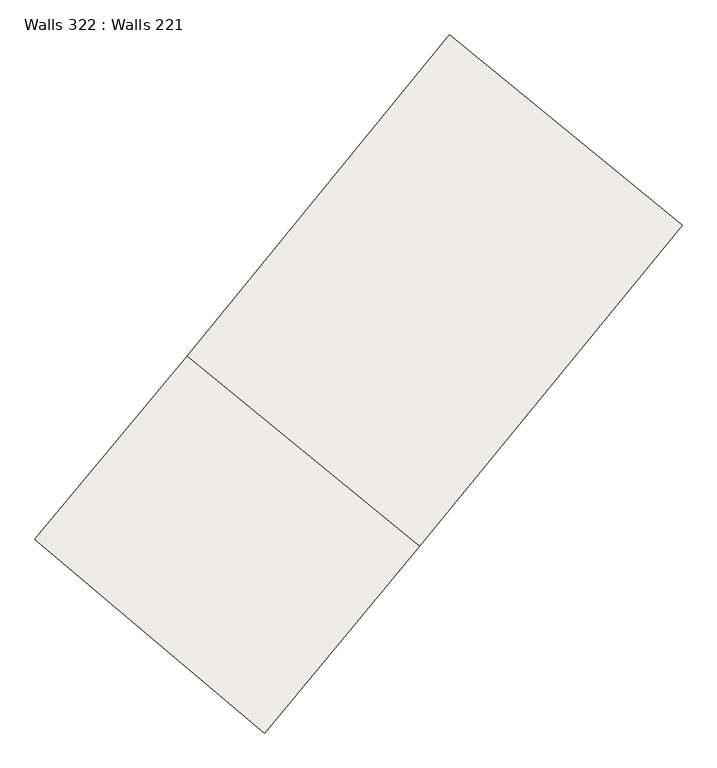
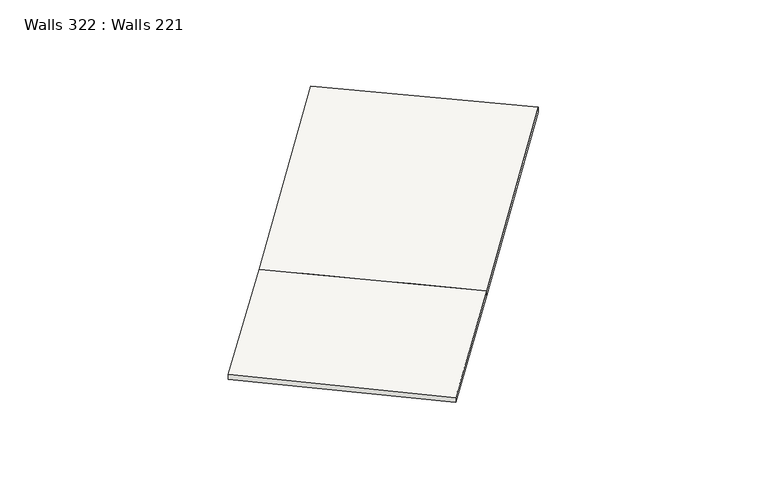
"""IFC4 building model written with IfcOpenShell, lengths in millimetres: slab geometry, Walls 322 : Walls 221."""

import ifcopenshell
import ifcopenshell.guid

model = None  # the IFC model being written
_history = None  # IfcOwnerHistory: only IFC2X3 demands one
_inside = {}  # id of a spatial element -> (the spatial element, [elements in it])
_under = {}  # id of a project, library or spatial element -> (it, [spatial elements below it])
_declared = {}  # id of a project -> (the project, [libraries it declares])
_typed = {}  # id of a type object -> (the type object, [elements of that type])
_made_of = {}  # id of a material, layer set ... -> (it, [elements and type objects made of it])


def new_model(schema):
    """Start an empty IFC model of exactly this schema.

    Asked for "IFC4X3", IfcOpenShell would pick the latest addendum, in which some entities
    have other attributes; the version numbers below select the first issue.
    IFC2X3 requires an IfcOwnerHistory on every rooted entity: one is made here for all.
    """
    global model, _history
    if schema == "IFC4X3":
        model = ifcopenshell.file(schema_version=(4, 3, 0, 0))
    else:
        model = ifcopenshell.file(schema=schema)
    _inside.clear()
    _under.clear()
    _declared.clear()
    _typed.clear()
    _made_of.clear()
    _history = None
    if model.schema == "IFC2X3":
        org = make("IfcOrganization", Name="unknown")
        user = make(
            "IfcPersonAndOrganization",
            ThePerson=make("IfcPerson", FamilyName="unknown"),
            TheOrganization=org,
        )
        app = make(
            "IfcApplication",
            ApplicationDeveloper=org,
            Version="unknown",
            ApplicationFullName="unknown",
            ApplicationIdentifier="unknown",
        )
        _history = make(
            "IfcOwnerHistory",
            OwningUser=user,
            OwningApplication=app,
            ChangeAction="ADDED",
            CreationDate=0,
        )
    return model


def make(cls, **values):
    """One entity of the class cls with the attributes given. An attribute that is None is left unset."""
    return model.create_entity(
        cls, **{name: value for name, value in values.items() if value is not None}
    )


def rooted(cls, **values):
    """An entity with a GlobalId (a new one), such as an element, a storey or a relation."""
    return make(cls, GlobalId=ifcopenshell.guid.new(), OwnerHistory=_history, **values)


def si_unit(unit_type, name, prefix=None):
    """IfcSIUnit, for example si_unit("LENGTHUNIT", "METRE", prefix="MILLI")."""
    return make("IfcSIUnit", UnitType=unit_type, Prefix=prefix, Name=name)


def assignment(units):
    """IfcUnitAssignment: the units of a project."""
    return None if units is None else make("IfcUnitAssignment", Units=units)


def point(xyz):
    """IfcCartesianPoint."""
    return None if xyz is None else make("IfcCartesianPoint", Coordinates=xyz)


def direction(xyz):
    """IfcDirection."""
    return None if xyz is None else make("IfcDirection", DirectionRatios=xyz)


def frame(location, z_axis=None, x_axis=None):
    """IfcAxis2Placement3D, a coordinate frame: its origin and axes. An axis left out is left unset."""
    return make(
        "IfcAxis2Placement3D",
        Location=point(location),
        Axis=direction(z_axis),
        RefDirection=direction(x_axis),
    )


def origin():
    """The frame at (0, 0, 0) with its axes left unset."""
    return frame((0.0, 0.0, 0.0))


def place(relative_to, where):
    """IfcLocalPlacement: puts the frame where relative to a parent placement (None: the world)."""
    return make(
        "IfcLocalPlacement", PlacementRelTo=relative_to, RelativePlacement=where
    )


def context(
    kind, dimensions, precision=None, world=None, true_north=None, identifier=None
):
    """IfcGeometricRepresentationContext, for example the 3D "Model" context."""
    return make(
        "IfcGeometricRepresentationContext",
        ContextIdentifier=identifier,
        ContextType=kind,
        CoordinateSpaceDimension=dimensions,
        Precision=precision,
        WorldCoordinateSystem=world,
        TrueNorth=true_north,
    )


def project(units=None, contexts=None):
    """IfcProject with its units and contexts."""
    return rooted(
        "IfcProject",
        Name="project",
        RepresentationContexts=contexts,
        UnitsInContext=assignment(units),
    )


def spatial(cls, under=None, at=None, **own):
    """A site, building, storey or space (cls), placed at a placement, below another one or the project."""
    s = rooted(cls, ObjectPlacement=at, **own)
    if under is not None:
        _under.setdefault(under.id(), (under, []))[1].append(s)
    return s


def shape(context_of_items, identifier, shape_type, items):
    """IfcShapeRepresentation: the items that make up one representation, for example the "Body"."""
    return make(
        "IfcShapeRepresentation",
        ContextOfItems=context_of_items,
        RepresentationIdentifier=identifier,
        RepresentationType=shape_type,
        Items=items,
    )


def source(mapping_origin, context_of_items, identifier, shape_type, items):
    """IfcRepresentationMap: a shape defined once, which mapped items show again and again."""
    return make(
        "IfcRepresentationMap",
        MappingOrigin=mapping_origin,
        MappedRepresentation=shape(context_of_items, identifier, shape_type, items),
    )


def transform(
    local_origin,
    x_axis=None,
    y_axis=None,
    z_axis=None,
    scale=None,
    scale2=None,
    scale3=None,
    uniform=True,
):
    """IfcCartesianTransformationOperator3D, or its non-uniform kind. x_axis, y_axis, z_axis: its Axis1, 2, 3."""
    if uniform:
        return make(
            "IfcCartesianTransformationOperator3D",
            Axis1=direction(x_axis),
            Axis2=direction(y_axis),
            LocalOrigin=point(local_origin),
            Scale=scale,
            Axis3=direction(z_axis),
        )
    return make(
        "IfcCartesianTransformationOperator3DnonUniform",
        Axis1=direction(x_axis),
        Axis2=direction(y_axis),
        LocalOrigin=point(local_origin),
        Scale=scale,
        Axis3=direction(z_axis),
        Scale2=scale2,
        Scale3=scale3,
    )


def mapped(mapping_source, mapping_target):
    """IfcMappedItem: shows the shape of a source again, moved by a transform."""
    return make(
        "IfcMappedItem", MappingSource=mapping_source, MappingTarget=mapping_target
    )


def made_of(thing, what):
    """Note that an element or type object is made of a material, layer set ...; save() writes the relation."""
    if what is not None:
        _made_of.setdefault(what.id(), (what, []))[1].append(thing)
    return thing


def element(
    cls,
    number,
    at=None,
    inside=None,
    cuts=None,
    type_object=None,
    material=None,
    context=None,
    identifier="Body",
    shape_type=None,
    held_by="IfcProductDefinitionShape",
    body=None,
    shapes=None,
    **own,
):
    """One element of the class cls, such as IfcWall. Its Tag is "e" and its number.

    at: its placement. inside: the storey or other place that contains it. cuts: it is an
    opening in that element (IfcRelVoidsElement). A single representation is given by context,
    identifier, shape_type and body (its items); several are given by shapes. held_by: the class
    of the entity that holds the representations. save() writes the other relations.
    """
    e = rooted(cls, Tag="e%d" % number, ObjectPlacement=at, **own)
    if body is not None:
        shapes = [shape(context, identifier, shape_type, body)]
    if shapes is not None:
        e.Representation = make(held_by, Representations=shapes)
    if inside is not None:
        _inside.setdefault(inside.id(), (inside, []))[1].append(e)
    if cuts is not None:
        rooted(
            "IfcRelVoidsElement", RelatingBuildingElement=cuts, RelatedOpeningElement=e
        )
    if type_object is not None:
        _typed.setdefault(type_object.id(), (type_object, []))[1].append(e)
    return made_of(e, material)


def aggregate(whole, parts):
    """IfcRelAggregates: a whole, such as a stair, and the parts it consists of."""
    return rooted("IfcRelAggregates", RelatingObject=whole, RelatedObjects=parts)


def save(model, path):
    """Write the relations noted so far, then the file.

    IfcRelAggregates (storeys below a building ...), IfcRelContainedInSpatialStructure (elements
    in a storey), IfcRelDefinesByType, IfcRelAssociatesMaterial and IfcRelDeclares: one each for
    every whole, place, type object, material and project.
    """
    for whole, parts in _under.values():
        aggregate(whole, parts)
    for where, things in _inside.values():
        rooted(
            "IfcRelContainedInSpatialStructure",
            RelatedElements=things,
            RelatingStructure=where,
        )
    for kind, things in _typed.values():
        rooted("IfcRelDefinesByType", RelatedObjects=things, RelatingType=kind)
    for what, things in _made_of.values():
        rooted("IfcRelAssociatesMaterial", RelatedObjects=things, RelatingMaterial=what)
    for by, libraries in _declared.values():
        rooted("IfcRelDeclares", RelatingContext=by, RelatedDefinitions=libraries)
    model.write(path)


def plane_surface(at):
    """IfcPlane: the flat surface through the origin of the frame at, square to its z axis."""
    return make("IfcPlane", Position=at)


def spline_curve(degree, points, multiplicities, knots, weights=None):
    """IfcBSplineCurveWithKnots; with weights, IfcRationalBSplineCurveWithKnots."""
    own = dict(
        Degree=degree,
        ControlPointsList=[point(p) for p in points],
        CurveForm="UNSPECIFIED",
        ClosedCurve=False,
        SelfIntersect=False,
        KnotMultiplicities=multiplicities,
        Knots=knots,
        KnotSpec="UNSPECIFIED",
    )
    if weights is None:
        return make("IfcBSplineCurveWithKnots", **own)
    return make("IfcRationalBSplineCurveWithKnots", WeightsData=weights, **own)


def spline_surface(u_degree, v_degree, points, u_multiplicities, v_multiplicities, u_knots, v_knots, weights=None):
    """IfcBSplineSurfaceWithKnots; with weights, IfcRationalBSplineSurfaceWithKnots. points: one row for each step in u."""
    own = dict(
        UDegree=u_degree,
        VDegree=v_degree,
        ControlPointsList=[[point(p) for p in row] for row in points],
        SurfaceForm="UNSPECIFIED",
        UClosed=False,
        VClosed=False,
        SelfIntersect=False,
        UMultiplicities=u_multiplicities,
        VMultiplicities=v_multiplicities,
        UKnots=u_knots,
        VKnots=v_knots,
        KnotSpec="UNSPECIFIED",
    )
    if weights is None:
        return make("IfcBSplineSurfaceWithKnots", **own)
    return make("IfcRationalBSplineSurfaceWithKnots", WeightsData=weights, **own)


def advanced_brep(points, edges, surfaces, faces):
    """IfcAdvancedBrep: a solid bounded by faces that lie on surfaces and meet in shared edges.

    An edge is (start, end): straight between two places in points (the first is 0);
    or (start, end, curve); or (start, end, curve, False) where it runs against its curve.
    A face is (place in surfaces, loops), or (place, loops, False) where it looks against
    its surface's normal. A loop lists edges by number (the first is 1), with a minus sign
    where the edge is run from its end to its start. The first loop is the outer one.
    """
    corners = [point(p) for p in points]
    vertices = [make("IfcVertexPoint", VertexGeometry=c) for c in corners]
    made = []
    for start, end, *more in edges:
        made.append(
            make(
                "IfcEdgeCurve",
                EdgeStart=vertices[start],
                EdgeEnd=vertices[end],
                EdgeGeometry=more[0] if more else make("IfcPolyline", Points=[corners[start], corners[end]]),
                SameSense=more[1] if len(more) > 1 else True,
            )
        )
    hull = []
    for where, loops, *sense in faces:
        bounds = []
        for j, loop in enumerate(loops):
            ring = [make("IfcOrientedEdge", EdgeElement=made[abs(k) - 1], Orientation=k > 0) for k in loop]
            bounds.append(
                make(
                    "IfcFaceOuterBound" if j == 0 else "IfcFaceBound",
                    Bound=make("IfcEdgeLoop", EdgeList=ring),
                    Orientation=True,
                )
            )
        hull.append(make("IfcAdvancedFace", Bounds=bounds, FaceSurface=surfaces[where], SameSense=sense[0] if sense else True))
    return make("IfcAdvancedBrep", Outer=make("IfcClosedShell", CfsFaces=hull))


def walls_322_walls_221_27f923a7(model_context):
    return source(origin(), model_context, "Body", "AdvancedBrep", [
        advanced_brep(
        [(388084.3443428, 259494.9687193, 644801.0), (388084.3443428, 259494.9687193, 644701.0), (391142.3364487, 256916.4644475, 644701.0), (391142.3364487, 256916.4644475, 644801.0), (393204.2480656, 259398.8755485, 644842.0), (390108.3996231, 261931.8031868, 644842.0), (393603.1047673, 266203.1756944, 644914.0), (396698.9532099, 263670.2480561, 644914.0), (396698.9532099, 263670.2480561, 644814.0), (393603.1047673, 266203.1756944, 644814.0), (390108.3996231, 261931.8031868, 644742.0), (393204.2480656, 259398.8755485, 644742.0)],
        [
            (0, 1),
            (1, 2),
            (2, 3),
            (3, 0),
            (3, 4, spline_curve(3, [(391142.3364487, 256916.4644475, 644801.0), (391835.756061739, 257738.829462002, 644814.66666669), (392523.085066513, 258566.330087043, 644828.33333331), (393204.2480656, 259398.8755485, 644842.0)], [4, 4], [0.0, 10.491172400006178])),
            (4, 5, spline_curve(3, [(393204.2480656, 259398.8755485, 644842.0), (392172.29858454, 260243.18476143, 644842.0), (391140.349104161, 261087.49397387, 644842.0), (390108.3996231, 261931.8031868, 644842.0)], [4, 4], [0.0, 13.123359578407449])),
            (5, 0, spline_curve(3, [(390108.3996231, 261931.8031868, 644842.0), (389439.742657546, 261114.54311419, 644828.33333331), (388765.032892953, 260302.235256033, 644814.66666669), (388084.3443428, 259494.9687193, 644801.0)], [4, 4], [0.0, 10.491172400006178])),
            (6, 7),
            (7, 8),
            (8, 9),
            (9, 6),
            (6, 5),
            (4, 7),
            (5, 10, spline_curve(3, [(390108.3996231, 261931.8031868, 644842.0), (390108.3996231, 261931.8031868, 644808.666666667), (390108.3996231, 261931.8031868, 644775.333333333), (390108.3996231, 261931.8031868, 644742.0)], [4, 4], [0.0, 0.3280839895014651])),
            (10, 1, spline_curve(3, [(390108.3996231, 261931.8031868, 644742.0), (389439.742657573, 261114.543114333, 644728.333333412), (388765.03289318, 260302.235255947, 644714.666666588), (388084.3443428, 259494.9687193, 644701.0)], [4, 4], [0.0, 10.39398811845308])),
            (10, 11, spline_curve(3, [(390108.3996231, 261931.8031868, 644742.0), (391140.349104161, 261087.49397387, 644742.0), (392172.29858454, 260243.18476143, 644742.0), (393204.2480656, 259398.8755485, 644742.0)], [4, 4], [0.0, 13.12335957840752])),
            (11, 2, spline_curve(3, [(393204.2480656, 259398.8755485, 644742.0), (392523.085066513, 258566.330087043, 644728.33333331), (391835.756061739, 257738.829462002, 644714.66666669), (391142.3364487, 256916.4644475, 644701.0)], [4, 4], [0.0, 10.491172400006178])),
            (11, 4, spline_curve(3, [(393204.2480656, 259398.8755485, 644742.0), (393204.2480656, 259398.8755485, 644775.333333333), (393204.2480656, 259398.8755485, 644808.666666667), (393204.2480656, 259398.8755485, 644842.0)], [4, 4], [0.0, 0.3280839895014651])),
            (9, 10),
            (8, 11),
        ],
        [
            plane_surface(frame((389613.3403957, 258205.7165834, 644751.0), z_axis=(-0.6446260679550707, -0.7644980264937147, 0.0), x_axis=(0.0, 0.0, -1.0))),
            spline_surface(3, 3, [[(393204.2480656, 259398.8755485, 644842.0), (392523.085066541, 258566.33008692, 644828.333333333), (391835.756061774, 257738.829462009, 644814.666666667), (391142.3364487, 256916.4644475, 644801.0)], [(392172.29858475, 260243.18476126, 644842.0), (391495.304263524, 259415.734429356, 644828.333333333), (390812.181672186, 258593.298060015, 644814.666666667), (390123.005746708, 257775.96587144, 644801.0)], [(391140.34910395, 261087.49397404, 644842.0), (390467.523460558, 260265.138771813, 644828.333333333), (389788.607282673, 259447.766658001, 644814.666666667), (389103.675044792, 258635.46729536, 644801.0)], [(390108.3996231, 261931.8031868, 644842.0), (389439.742657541, 261114.543114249, 644828.333333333), (388765.032893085, 260302.235256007, 644814.666666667), (388084.3443428, 259494.9687193, 644801.0)]], [4, 4], [4, 4], [0.0, 13.123359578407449], [0.0, 10.491172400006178]),
            plane_surface(frame((395151.0289886, 264936.7118753, 644864.0), z_axis=(0.6332319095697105, 0.7739621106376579, 0.0), x_axis=(0.0, 0.0, -1.0))),
            plane_surface(frame((395151.0289886, 264936.7118753, 644914.0), z_axis=(-0.008260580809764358, -0.010096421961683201, 0.9999149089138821), x_axis=(-0.7739621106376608, 0.6332319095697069, 0.0))),
            spline_surface(3, 3, [[(390108.3996231, 261931.8031868, 644842.0), (389439.742657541, 261114.543114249, 644828.333333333), (388765.032893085, 260302.235256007, 644814.666666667), (388084.3443428, 259494.9687193, 644801.0)], [(390108.3996231, 261931.8031868, 644808.666666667), (389439.742657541, 261114.543114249, 644795.0), (388765.032893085, 260302.235256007, 644781.333333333), (388084.3443428, 259494.9687193, 644767.666666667)], [(390108.3996231, 261931.8031868, 644775.333333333), (389439.742657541, 261114.543114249, 644761.666666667), (388765.032893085, 260302.235256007, 644748.0), (388084.3443428, 259494.9687193, 644734.333333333)], [(390108.3996231, 261931.8031868, 644742.0), (389439.742657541, 261114.543114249, 644728.333333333), (388765.032893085, 260302.235256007, 644714.666666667), (388084.3443428, 259494.9687193, 644701.0)]], [4, 4], [4, 4], [0.0, 0.3280839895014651], [0.0, 10.39398811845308]),
            spline_surface(3, 3, [[(390108.3996231, 261931.8031868, 644742.0), (389439.742657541, 261114.543114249, 644728.333333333), (388765.032893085, 260302.235256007, 644714.666666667), (388084.3443428, 259494.9687193, 644701.0)], [(391140.34910395, 261087.49397404, 644742.0), (390467.523460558, 260265.138771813, 644728.333333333), (389788.607282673, 259447.766658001, 644714.666666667), (389103.675044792, 258635.46729536, 644701.0)], [(392172.29858475, 260243.18476126, 644742.0), (391495.304263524, 259415.734429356, 644728.333333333), (390812.181672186, 258593.298060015, 644714.666666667), (390123.005746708, 257775.96587144, 644701.0)], [(393204.2480656, 259398.8755485, 644742.0), (392523.085066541, 258566.33008692, 644728.333333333), (391835.756061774, 257738.829462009, 644714.666666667), (391142.3364487, 256916.4644475, 644701.0)]], [4, 4], [4, 4], [0.0, 13.12335957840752], [0.0, 10.491172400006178]),
            spline_surface(3, 3, [[(393204.2480656, 259398.8755485, 644742.0), (392523.085066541, 258566.33008692, 644728.333333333), (391835.756061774, 257738.829462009, 644714.666666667), (391142.3364487, 256916.4644475, 644701.0)], [(393204.2480656, 259398.8755485, 644775.333333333), (392523.085066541, 258566.33008692, 644761.666666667), (391835.756061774, 257738.829462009, 644748.0), (391142.3364487, 256916.4644475, 644734.333333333)], [(393204.2480656, 259398.8755485, 644808.666666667), (392523.085066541, 258566.33008692, 644795.0), (391835.756061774, 257738.829462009, 644781.333333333), (391142.3364487, 256916.4644475, 644767.666666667)], [(393204.2480656, 259398.8755485, 644842.0), (392523.085066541, 258566.33008692, 644828.333333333), (391835.756061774, 257738.829462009, 644814.666666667), (391142.3364487, 256916.4644475, 644801.0)]], [4, 4], [4, 4], [0.0, 0.3280839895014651], [0.0, 10.588356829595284]),
            plane_surface(frame((393603.1047673, 266203.1756944, 644864.0), z_axis=(-0.7739621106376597, 0.6332319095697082, 0.0), x_axis=(0.0, 0.0, -1.0))),
            plane_surface(frame((395151.0289886, 264936.7118753, 644814.0), z_axis=(0.008260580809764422, 0.01009642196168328, -0.9999149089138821), x_axis=(0.7739621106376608, -0.6332319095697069, 0.0))),
            plane_surface(frame((396698.9532099, 263670.2480561, 644864.0), z_axis=(0.7739621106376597, -0.6332319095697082, 0.0), x_axis=(0.0, 0.0, 1.0))),
        ],
        [
            (0, [[1, 2, 3, 4]]),
            (1, [[-4, 5, 6, 7]]),
            (2, [[8, 9, 10, 11]]),
            (3, [[-8, 12, -6, 13]]),
            (4, [[-1, -7, 14, 15]]),
            (5, [[-2, -15, 16, 17]]),
            (6, [[-3, -17, 18, -5]]),
            (7, [[-11, 19, -14, -12]]),
            (8, [[-10, 20, -16, -19]]),
            (9, [[-9, -13, -18, -20]]),
        ],
    ),
    ])


if __name__ == "__main__":
    model = new_model("IFC4")
    model_context = context("Model", 3, world=origin())
    ifc_project = project(units=[si_unit("LENGTHUNIT", "METRE", prefix="MILLI")], contexts=[model_context])
    site = spatial("IfcSite", under=ifc_project)
    building = spatial("IfcBuilding", under=site)
    placement = place(None, origin())
    walls_322_walls_221_shape = walls_322_walls_221_27f923a7(model_context)
    element("IfcSlab", 1, ObjectType="Walls 322 : Walls 221", at=placement, inside=building, context=model_context, shape_type="MappedRepresentation", body=[
        mapped(walls_322_walls_221_shape, transform((0.0, 0.0, 0.0), x_axis=(1.0, 0.0, 0.0), y_axis=(0.0, 1.0, 0.0), z_axis=(0.0, 0.0, 1.0))),
    ])
    save(model, "model.ifc")
